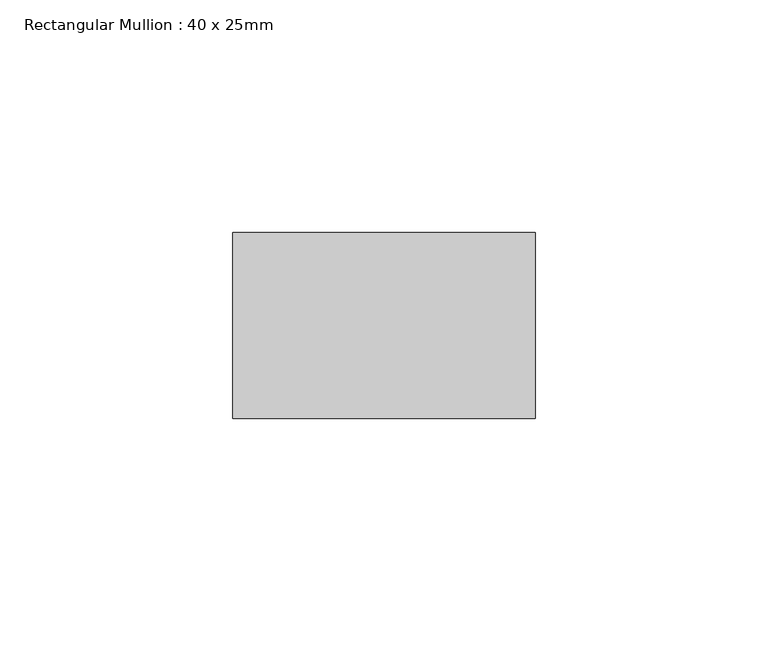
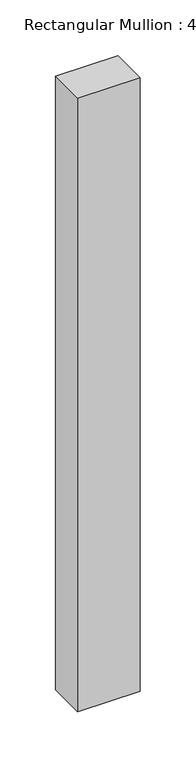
"""IFC4 building model written with IfcOpenShell, lengths in millimetres: member geometry, Rectangular Mullion : 40 x 25mm."""

from ifc_helpers import new_model, si_unit, frame, origin, place, context, project, spatial, polyline, outline, extrude, source, transform, mapped, element, save


def rectangular_mullion_40_x_25mm_3b1d97c8(model_context):
    return source(origin(), model_context, "Body", "SweptSolid", [
        extrude(outline(polyline([(0.0, -20.0), (0.0, -60.0), (-65.0, -60.0), (-65.0, -20.0), (0.0, -20.0)])), frame((0.0, 0.0, -674.1517574), z_axis=(0.0, 0.0, 1.0), x_axis=(1.0, 0.0, 0.0)), (0.0, 0.0, 1.0), 674.1517574),
    ])


if __name__ == "__main__":
    model = new_model("IFC4")
    model_context = context("Model", 3, world=origin())
    ifc_project = project(units=[si_unit("LENGTHUNIT", "METRE", prefix="MILLI")], contexts=[model_context])
    site = spatial("IfcSite", under=ifc_project)
    building = spatial("IfcBuilding", under=site)
    placement = place(None, origin())
    rectangular_mullion_40_x_25mm_shape = rectangular_mullion_40_x_25mm_3b1d97c8(model_context)
    element("IfcMember", 1, ObjectType="Rectangular Mullion : 40 x 25mm", at=placement, inside=building, context=model_context, shape_type="MappedRepresentation", body=[
        mapped(rectangular_mullion_40_x_25mm_shape, transform((0.0, 0.0, 0.0), x_axis=(1.0, 0.0, 0.0), y_axis=(0.0, 1.0, 0.0), z_axis=(0.0, 0.0, 1.0))),
    ])
    save(model, "model.ifc")
